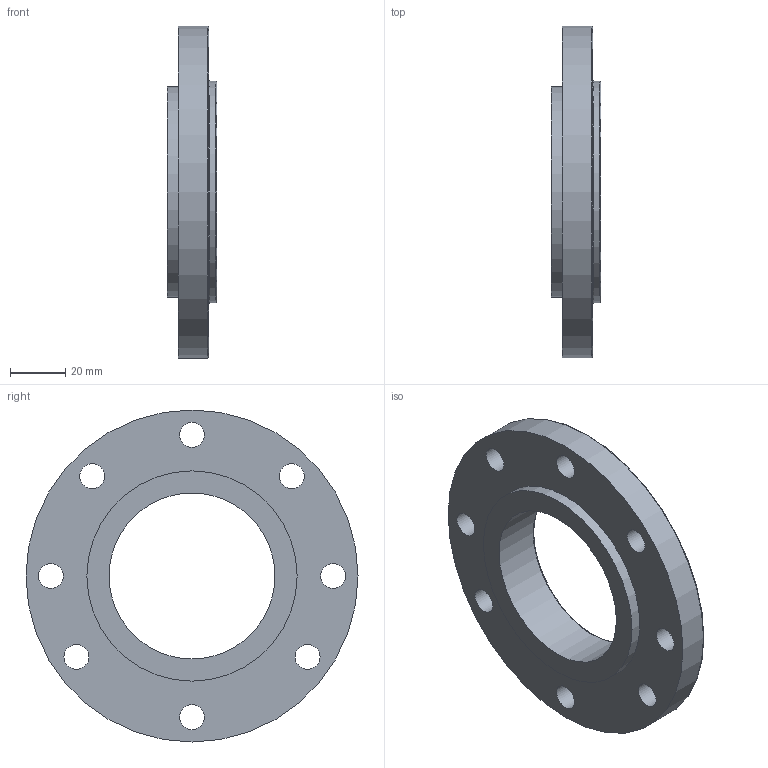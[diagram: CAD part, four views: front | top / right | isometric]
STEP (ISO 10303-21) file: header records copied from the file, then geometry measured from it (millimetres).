
FILE_DESCRIPTION((''),'2;1');
FILE_NAME('D:\PAWEŁ\ZLECENIA\2011 DualSystem\001 Modele\DKAB40_\DK_40_STEP\AZ_40.stp','2012-05-14T21:34:15',('admin'),(''),'Autodesk Inventor 2009','Autodesk Inventor 2009','');
FILE_SCHEMA(('AUTOMOTIVE_DESIGN { 1 0 10303 214 1 1 1 1 }'));
Length unit declared in the file: millimetre
Products named in the file (1): AZ_40
Bounding box: 18 x 120 x 120 mm (x, y, z)
Volume: 101106.5 mm3; surface area: 27453.8 mm2
Topology: 1 solids, 1 shells, 20 faces, 52 edges, 36 vertices
Faces by surface type: bspline 9, cylinder 4, plane 4, torus 3
Full cylindrical faces by diameter (mm): 60 x1, 76 x1, 80 x1, 120 x1
Entity records: 690 total; most frequent: CARTESIAN_POINT 257, DIRECTION 80, ORIENTED_EDGE 56, EDGE_LOOP 56, AXIS2_PLACEMENT_3D 40, FACE_BOUND 36, VERTEX_POINT 28, CIRCLE 28
